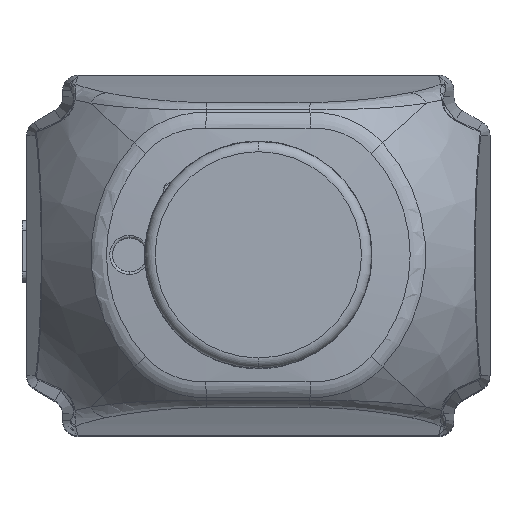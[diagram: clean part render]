
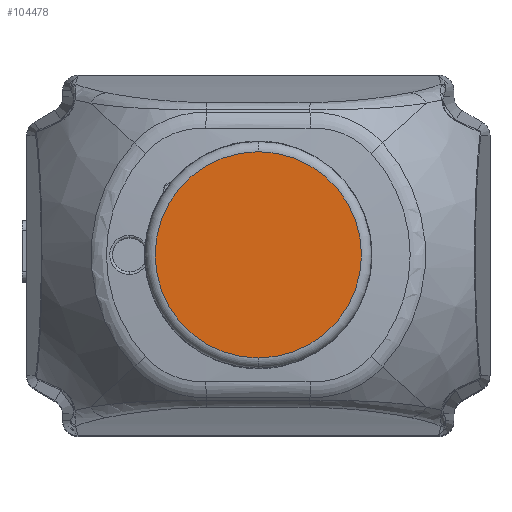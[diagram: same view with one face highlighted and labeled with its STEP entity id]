
A CAD part, top view. The second image highlights one B-rep face of the part: STEP entity #104478.
In plain terms, the highlighted planar face has unit normal (0, 0, 1).
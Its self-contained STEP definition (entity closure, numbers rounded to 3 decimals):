
#30572=CARTESIAN_POINT('',(0.,0.,31.48));
#30573=DIRECTION('',(0.,0.,-1.));
#30574=DIRECTION('',(0.,-1.,0.));
#30575=AXIS2_PLACEMENT_3D('',#30572,#30573,#30574);
#30577=CARTESIAN_POINT('',(0.,0.,31.48));
#30578=DIRECTION('',(0.,0.,-1.));
#30579=DIRECTION('',(0.,1.,0.));
#30580=AXIS2_PLACEMENT_3D('',#30577,#30578,#30579);
#45348=CARTESIAN_POINT('',(0.,20.035,31.48));
#45349=VERTEX_POINT('',#45348);
#45350=CARTESIAN_POINT('',(0.,-20.035,31.48));
#45351=VERTEX_POINT('',#45350);
#104469=CARTESIAN_POINT('',(0.,0.,31.48));
#104470=DIRECTION('',(0.,0.,1.));
#104471=DIRECTION('',(0.,1.,0.));
#104472=AXIS2_PLACEMENT_3D('',#104469,#104470,#104471);
#104473=PLANE('',#104472);
#104474=ORIENTED_EDGE('',*,*,#104449,.T.);
#104475=ORIENTED_EDGE('',*,*,#104462,.T.);
#104476=EDGE_LOOP('',(#104474,#104475));
#104477=FACE_OUTER_BOUND('',#104476,.F.);
#30576=CIRCLE('',#30575,20.035);
#30581=CIRCLE('',#30580,20.035);
#104449=EDGE_CURVE('',#45351,#45349,#30576,.T.);
#104462=EDGE_CURVE('',#45349,#45351,#30581,.T.);
#104478=ADVANCED_FACE('',(#104477),#104473,.T.);
